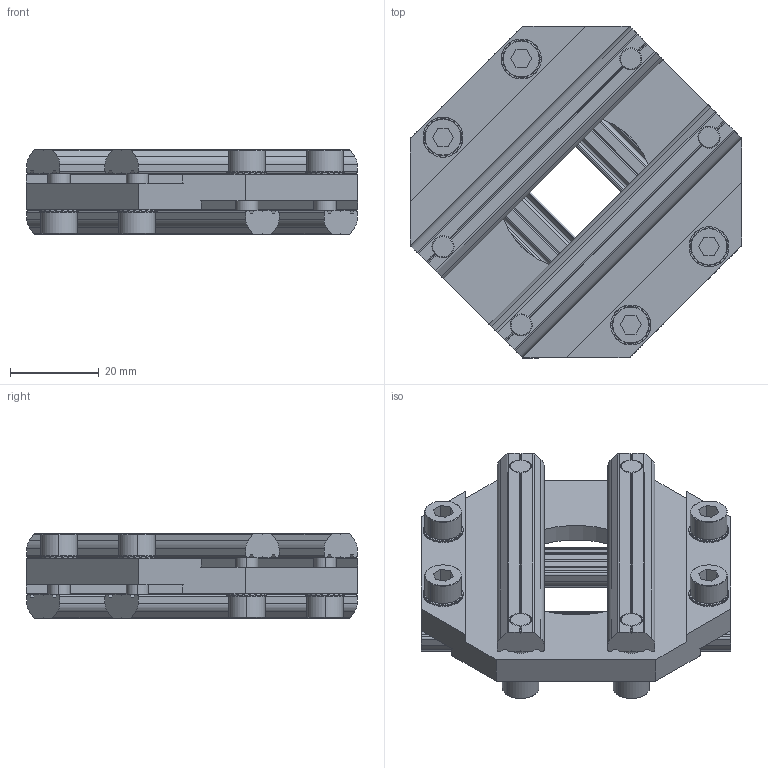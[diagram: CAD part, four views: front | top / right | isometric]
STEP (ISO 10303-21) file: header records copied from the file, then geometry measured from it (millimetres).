
FILE_DESCRIPTION (( 'STEP AP214' ), '1' );
FILE_NAME ('SMBA-5050.STEP', '2019-10-31T01:59:41', ( '微软用户' ), ( '微软中国' ), 'SwSTEP 2.0', 'SolidWorks 2016', '' );
FILE_SCHEMA (( 'AUTOMOTIVE_DESIGN' ));
Length unit declared in the file: millimetre
Products named in the file (5): PTS-M5; PTN-M5P60; PTC-M5L14; SMBA-5050
Assembly tree (21 placements, depth 2):
  SMBA-5050
    SMBA-5050
    PTC-M5L14  x8
    PTN-M5P60  x4
    PTS-M5  x8
Bounding box: 75 x 75 x 19.1 mm (x, y, z)
Volume: 33145.8 mm3; surface area: 23696.8 mm2
Topology: 21 solids, 21 shells, 1708 faces, 4998 edges, 3316 vertices
Faces by surface type: plane 1490, cylinder 170, cone 48
Entity records: 9516 total; most frequent: CARTESIAN_POINT 1804, DIRECTION 1602, ORIENTED_EDGE 1584, EDGE_CURVE 792, AXIS2_PLACEMENT_3D 548, VERTEX_POINT 526, LINE 506, VECTOR 506
